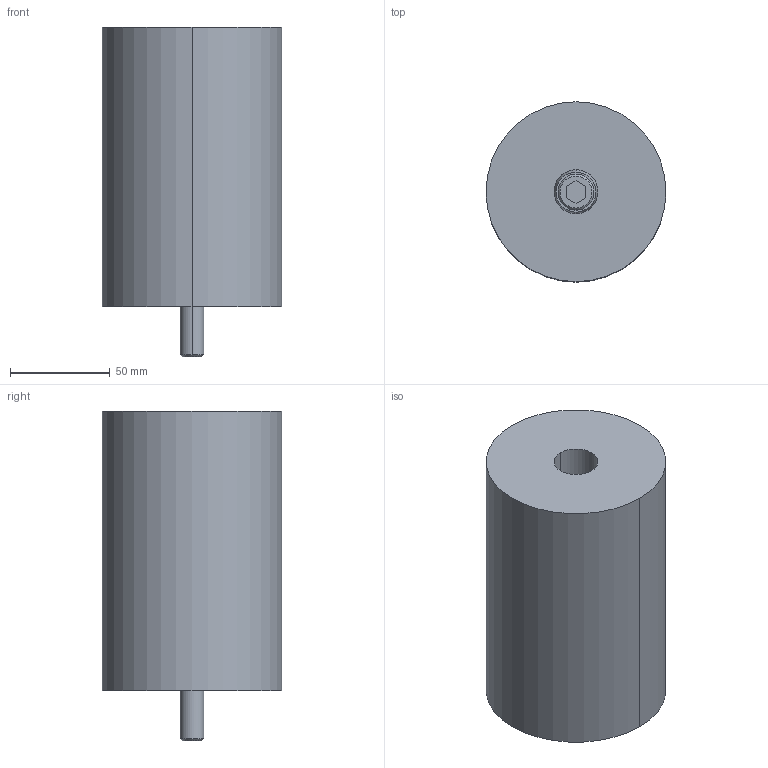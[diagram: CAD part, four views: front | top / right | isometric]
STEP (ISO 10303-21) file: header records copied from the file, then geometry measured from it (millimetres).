
FILE_DESCRIPTION(/* description */ (''),/* implementation_level */ '2;1');
FILE_NAME(/* name */ '3d_esub90-140_07041_r00.stp',/* time_stamp */ '2011-01-10T14:15:38+09:00',/* author */ ('MISUMI'),/* organization */ (''),/* preprocessor_version */ 'ST-DEVELOPER v11',/* originating_system */ 'UGS - NX 5.0',/* authorisation */ '');
FILE_SCHEMA (('CONFIG_CONTROL_DESIGN'));
Length unit declared in the file: millimetre
Products named in the file (1): 3d_esub90-140_07041_r00
Bounding box: 90 x 90 x 165 mm (x, y, z)
Volume: 855883.5 mm3; surface area: 68658.8 mm2
Topology: 3 solids, 3 shells, 36 faces, 74 edges, 46 vertices
Faces by surface type: cylinder 14, plane 14, cone 8
Entity records: 1042 total; most frequent: DIRECTION 182, CARTESIAN_POINT 157, ORIENTED_EDGE 148, EDGE_CURVE 74, AXIS2_PLACEMENT_3D 71, VERTEX_POINT 46, EDGE_LOOP 42, LINE 40
